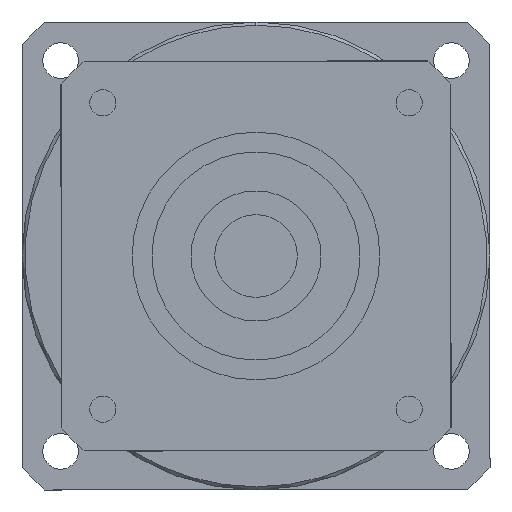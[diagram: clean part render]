
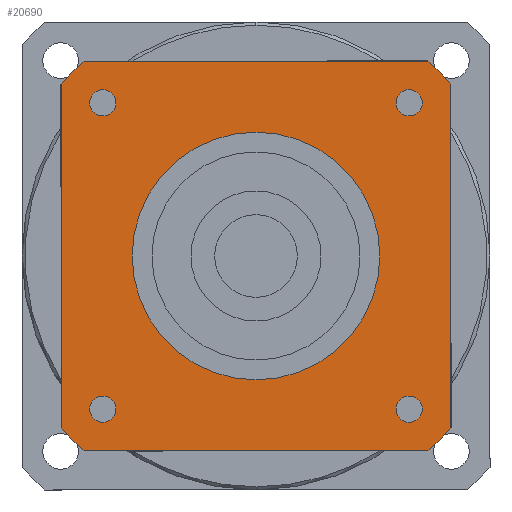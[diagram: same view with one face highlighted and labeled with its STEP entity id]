
A CAD part, left-side view. The second image highlights one B-rep face of the part: STEP entity #20690.
In plain terms, the highlighted planar face has unit normal (-1, 0, 0) as drawn and (0, 0, -1) by its records, which use the part's own axes.
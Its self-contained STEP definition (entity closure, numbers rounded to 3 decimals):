
#15250=CARTESIAN_POINT('',(26.458,-30.,-90.));
#15260=VERTEX_POINT('',#15250);
#15420=CARTESIAN_POINT('',(30.,-26.458,-90.));
#15430=VERTEX_POINT('',#15420);
#15460=CARTESIAN_POINT('',(0.,0.,
-90.));
#15470=DIRECTION('',(0.,0.,1.));
#15480=DIRECTION('',(0.,-1.,0.));
#15490=AXIS2_PLACEMENT_3D('',#15460,#15470,#15480);
#15500=CIRCLE('',#15490,40.);
#15510=EDGE_CURVE('',#15260,#15430,#15500,.T.);
#15670=CARTESIAN_POINT('',(26.458,30.,-90.));
#15680=VERTEX_POINT('',#15670);
#15710=CARTESIAN_POINT('',(0.,0.,
-90.));
#15720=DIRECTION('',(0.,0.,1.));
#15730=DIRECTION('',(0.,-1.,0.));
#15740=AXIS2_PLACEMENT_3D('',#15710,#15720,#15730);
#15750=CIRCLE('',#15740,40.);
#15760=CARTESIAN_POINT('',(30.,26.458,-90.));
#15770=VERTEX_POINT('',#15760);
#15780=EDGE_CURVE('',#15770,#15680,#15750,.T.);
#18090=CARTESIAN_POINT('',(30.,-30.,-90.));
#18100=DIRECTION('',(0.,1.,0.));
#18110=VECTOR('',#18100,1000.);
#18120=LINE('',#18090,#18110);
#18130=EDGE_CURVE('',#15430,#15770,#18120,.T.);
#18390=CARTESIAN_POINT('',(-26.458,30.,-90.));
#18400=VERTEX_POINT('',#18390);
#18430=CARTESIAN_POINT('',(30.,30.,-90.));
#18440=DIRECTION('',(-1.,0.,0.));
#18450=VECTOR('',#18440,1000.);
#18460=LINE('',#18430,#18450);
#18470=EDGE_CURVE('',#15680,#18400,#18460,.T.);
#18830=CARTESIAN_POINT('',(-30.,26.458,-90.));
#18840=VERTEX_POINT('',#18830);
#18870=CARTESIAN_POINT('',(0.,0.,
-90.));
#18880=DIRECTION('',(0.,0.,1.));
#18890=DIRECTION('',(0.,-1.,0.));
#18900=AXIS2_PLACEMENT_3D('',#18870,#18880,#18890);
#18910=CIRCLE('',#18900,40.);
#18920=EDGE_CURVE('',#18400,#18840,#18910,.T.);
#19260=CARTESIAN_POINT('',(-30.,-26.458,-90.));
#19270=VERTEX_POINT('',#19260);
#19350=CARTESIAN_POINT('',(-26.458,-30.,-90.));
#19360=VERTEX_POINT('',#19350);
#19390=CARTESIAN_POINT('',(0.,0.,
-90.));
#19400=DIRECTION('',(0.,0.,1.));
#19410=DIRECTION('',(0.,-1.,0.));
#19420=AXIS2_PLACEMENT_3D('',#19390,#19400,#19410);
#19430=CIRCLE('',#19420,40.);
#19440=EDGE_CURVE('',#19270,#19360,#19430,.T.);
#19490=CARTESIAN_POINT('',(-30.,30.,-90.));
#19500=DIRECTION('',(0.,0.,1.));
#19510=DIRECTION('',(-1.,0.,0.));
#19520=AXIS2_PLACEMENT_3D('',#19490,#19500,#19510);
#19530=PLANE('',#19520);
#19540=CARTESIAN_POINT('',(23.571,-23.571,-90.));
#19550=DIRECTION('',(0.,0.,-1.));
#19560=DIRECTION('',(1.,0.,0.));
#19570=AXIS2_PLACEMENT_3D('',#19540,#19550,#19560);
#19580=CIRCLE('',#19570,2.);
#19590=CARTESIAN_POINT('',(25.571,-23.571,-90.));
#19600=VERTEX_POINT('',#19590);
#19610=CARTESIAN_POINT('',(23.571,-25.571,-90.));
#19620=VERTEX_POINT('',#19610);
#19630=EDGE_CURVE('',#19600,#19620,#19580,.T.);
#19640=ORIENTED_EDGE('',*,*,#19630,.F.);
#19650=CARTESIAN_POINT('',(23.571,-21.571,-90.));
#19660=VERTEX_POINT('',#19650);
#19670=EDGE_CURVE('',#19620,#19660,#19580,.T.);
#19680=ORIENTED_EDGE('',*,*,#19670,.F.);
#19690=EDGE_CURVE('',#19660,#19600,#19580,.T.);
#19700=ORIENTED_EDGE('',*,*,#19690,.F.);
#19710=EDGE_LOOP('',(#19700,#19680,#19640));
#19720=FACE_BOUND('',#19710,.T.);
#19730=CARTESIAN_POINT('',(23.571,23.571,-90.));
#19740=DIRECTION('',(0.,0.,-1.));
#19750=DIRECTION('',(0.,1.,0.));
#19760=AXIS2_PLACEMENT_3D('',#19730,#19740,#19750);
#19770=CIRCLE('',#19760,2.);
#19780=CARTESIAN_POINT('',(23.571,25.571,-90.));
#19790=VERTEX_POINT('',#19780);
#19800=CARTESIAN_POINT('',(25.571,23.571,-90.));
#19810=VERTEX_POINT('',#19800);
#19820=EDGE_CURVE('',#19790,#19810,#19770,.T.);
#19830=ORIENTED_EDGE('',*,*,#19820,.F.);
#19840=CARTESIAN_POINT('',(21.571,23.571,-90.));
#19850=VERTEX_POINT('',#19840);
#19860=EDGE_CURVE('',#19810,#19850,#19770,.T.);
#19870=ORIENTED_EDGE('',*,*,#19860,.F.);
#19880=EDGE_CURVE('',#19850,#19790,#19770,.T.);
#19890=ORIENTED_EDGE('',*,*,#19880,.F.);
#19900=EDGE_LOOP('',(#19890,#19870,#19830));
#19910=FACE_BOUND('',#19900,.T.);
#19920=CARTESIAN_POINT('',(-23.571,23.571,-90.));
#19930=DIRECTION('',(0.,0.,-1.));
#19940=DIRECTION('',(-1.,0.,0.));
#19950=AXIS2_PLACEMENT_3D('',#19920,#19930,#19940);
#19960=CIRCLE('',#19950,2.);
#19970=CARTESIAN_POINT('',(-25.571,23.571,-90.));
#19980=VERTEX_POINT('',#19970);
#19990=CARTESIAN_POINT('',(-23.571,25.571,-90.));
#20000=VERTEX_POINT('',#19990);
#20010=EDGE_CURVE('',#19980,#20000,#19960,.T.);
#20020=ORIENTED_EDGE('',*,*,#20010,.F.);
#20030=CARTESIAN_POINT('',(-23.571,21.571,-90.));
#20040=VERTEX_POINT('',#20030);
#20050=EDGE_CURVE('',#20000,#20040,#19960,.T.);
#20060=ORIENTED_EDGE('',*,*,#20050,.F.);
#20070=EDGE_CURVE('',#20040,#19980,#19960,.T.);
#20080=ORIENTED_EDGE('',*,*,#20070,.F.);
#20090=EDGE_LOOP('',(#20080,#20060,#20020));
#20100=FACE_BOUND('',#20090,.T.);
#20110=CARTESIAN_POINT('',(-23.571,-23.571,-90.));
#20120=DIRECTION('',(0.,0.,-1.));
#20130=DIRECTION('',(0.,-1.,0.));
#20140=AXIS2_PLACEMENT_3D('',#20110,#20120,#20130);
#20150=CIRCLE('',#20140,2.);
#20160=CARTESIAN_POINT('',(-23.571,-25.571,-90.));
#20170=VERTEX_POINT('',#20160);
#20180=CARTESIAN_POINT('',(-25.571,-23.571,-90.));
#20190=VERTEX_POINT('',#20180);
#20200=EDGE_CURVE('',#20170,#20190,#20150,.T.);
#20210=ORIENTED_EDGE('',*,*,#20200,.F.);
#20220=CARTESIAN_POINT('',(-21.571,-23.571,-90.));
#20230=VERTEX_POINT('',#20220);
#20240=EDGE_CURVE('',#20190,#20230,#20150,.T.);
#20250=ORIENTED_EDGE('',*,*,#20240,.F.);
#20260=EDGE_CURVE('',#20230,#20170,#20150,.T.);
#20270=ORIENTED_EDGE('',*,*,#20260,.F.);
#20280=EDGE_LOOP('',(#20270,#20250,#20210));
#20290=FACE_BOUND('',#20280,.T.);
#20300=ORIENTED_EDGE('',*,*,#19440,.F.);
#20310=CARTESIAN_POINT('',(-30.,-30.,-90.));
#20320=DIRECTION('',(1.,0.,0.));
#20330=VECTOR('',#20320,1000.);
#20340=LINE('',#20310,#20330);
#20350=EDGE_CURVE('',#19360,#15260,#20340,.T.);
#20360=ORIENTED_EDGE('',*,*,#20350,.F.);
#20370=ORIENTED_EDGE('',*,*,#15510,.F.);
#20380=ORIENTED_EDGE('',*,*,#18130,.F.);
#20390=ORIENTED_EDGE('',*,*,#15780,.F.);
#20400=ORIENTED_EDGE('',*,*,#18470,.F.);
#20410=ORIENTED_EDGE('',*,*,#18920,.F.);
#20420=CARTESIAN_POINT('',(-30.,30.,-90.));
#20430=DIRECTION('',(0.,-1.,0.));
#20440=VECTOR('',#20430,1000.);
#20450=LINE('',#20420,#20440);
#20460=EDGE_CURVE('',#18840,#19270,#20450,.T.);
#20470=ORIENTED_EDGE('',*,*,#20460,.F.);
#20480=EDGE_LOOP('',(#20470,#20410,#20400,#20390,#20380,#20370,#20360,
#20300));
#20490=FACE_OUTER_BOUND('',#20480,.T.);
#20500=CARTESIAN_POINT('',(0.,0.,
-90.));
#20510=DIRECTION('',(0.,0.,1.));
#20520=DIRECTION('',(0.,-1.,0.));
#20530=AXIS2_PLACEMENT_3D('',#20500,#20510,#20520);
#20540=CIRCLE('',#20530,19.05);
#20550=CARTESIAN_POINT('',(19.05,0.,-90.));
#20560=VERTEX_POINT('',#20550);
#20570=CARTESIAN_POINT('',(-19.05,0.,-90.));
#20580=VERTEX_POINT('',#20570);
#20590=EDGE_CURVE('',#20560,#20580,#20540,.T.);
#20600=ORIENTED_EDGE('',*,*,#20590,.T.);
#20610=CARTESIAN_POINT('',(0.,-19.05,-90.));
#20620=VERTEX_POINT('',#20610);
#20630=EDGE_CURVE('',#20620,#20560,#20540,.T.);
#20640=ORIENTED_EDGE('',*,*,#20630,.T.);
#20650=EDGE_CURVE('',#20580,#20620,#20540,.T.);
#20660=ORIENTED_EDGE('',*,*,#20650,.T.);
#20670=EDGE_LOOP('',(#20660,#20640,#20600));
#20680=FACE_BOUND('',#20670,.T.);
#20690=ADVANCED_FACE('',(#19720,#19910,#20100,#20290,#20490,#20680),
#19530,.F.);
